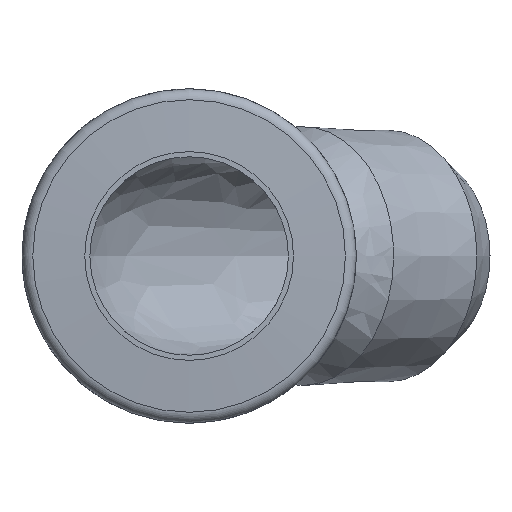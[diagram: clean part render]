
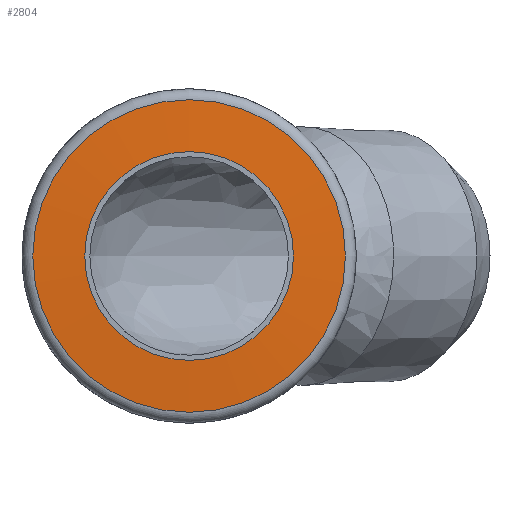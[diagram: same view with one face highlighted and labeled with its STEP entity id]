
A CAD part, front view. The second image highlights one B-rep face of the part: STEP entity #2804.
In plain terms, the highlighted conical face has half-angle 87 degrees and reference radius 11.9 mm.
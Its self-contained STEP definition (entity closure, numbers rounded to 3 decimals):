
#2773=CARTESIAN_POINT('',(13.702,0.239,0.));
#2774=VERTEX_POINT('',#2773);
#2775=CARTESIAN_POINT('',(0.0,0.239,0.));
#2776=DIRECTION('',(0.0,1.0,0.0));
#2777=DIRECTION('',(-1.0,0.0,0.0));
#2778=AXIS2_PLACEMENT_3D('',#2775,#2776,#2777);
#2779=CIRCLE('',#2778,13.702);
#2780=EDGE_CURVE('',#2774,#2774,#2779,.T.);
#2785=CARTESIAN_POINT('',(0.,0.144,0.));
#2786=DIRECTION('',(0.,1.0,0.));
#2787=DIRECTION('',(-1.0,0.0,0.0));
#2788=AXIS2_PLACEMENT_3D('',#2785,#2786,#2787);
#2789=CONICAL_SURFACE('',#2788,11.9,87.);
#2790=CARTESIAN_POINT('',(9.15,0.,0.0));
#2791=VERTEX_POINT('',#2790);
#2792=CARTESIAN_POINT('',(0.,0.0,0.));
#2793=DIRECTION('',(0.0,1.0,0.0));
#2794=DIRECTION('',(-1.0,0.0,0.0));
#2795=AXIS2_PLACEMENT_3D('',#2792,#2793,#2794);
#2796=CIRCLE('',#2795,9.15);
#2797=EDGE_CURVE('',#2791,#2791,#2796,.T.);
#2798=ORIENTED_EDGE('',*,*,#2797,.T.);
#2799=EDGE_LOOP('',(#2798));
#2800=FACE_OUTER_BOUND('',#2799,.T.);
#2801=ORIENTED_EDGE('',*,*,#2780,.F.);
#2802=EDGE_LOOP('',(#2801));
#2803=FACE_BOUND('',#2802,.T.);
#2804=ADVANCED_FACE('',(#2800,#2803),#2789,.T.);
